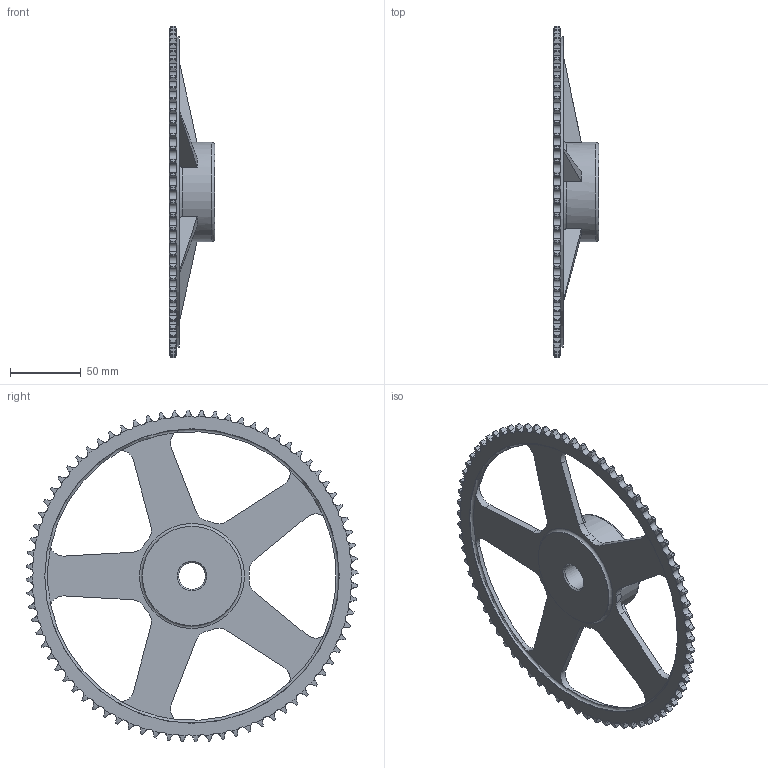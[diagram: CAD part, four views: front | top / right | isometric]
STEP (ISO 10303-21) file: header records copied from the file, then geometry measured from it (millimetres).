
FILE_DESCRIPTION(/* description */ (''),/* implementation_level */ '2;1');
FILE_NAME(/* name */ 'C:\Users\stagistacad\Desktop\12109076.stp',/* time_stamp */ '2018-06-20T16:34:53+02:00',/* author */ ('stagistacad'),/* organization */ (''),/* preprocessor_version */ 'ST-DEVELOPER v15.6',/* originating_system */ 'Autodesk Inventor 2015',/* authorisation */ '');
FILE_SCHEMA (('AUTOMOTIVE_DESIGN { 1 0 10303 214 3 1 1 }'));
Length unit declared in the file: millimetre
Products named in the file (1): 12109076
Bounding box: 32 x 234.1 x 234.1 mm (x, y, z)
Volume: 222608.6 mm3; surface area: 69561.6 mm2
Topology: 1 solids, 1 shells, 547 faces, 1619 edges, 1073 vertices
Faces by surface type: cylinder 349, torus 160, plane 31, cone 7
Full cylindrical faces by diameter (mm): 19 x1, 70 x2, 207.58 x1, 219 x1
Entity records: 20080 total; most frequent: CARTESIAN_POINT 6184, ORIENTED_EDGE 3212, DIRECTION 2638, EDGE_CURVE 1606, AXIS2_PLACEMENT_3D 1122, VERTEX_POINT 1070, B_SPLINE_CURVE_WITH_KNOTS 628, CIRCLE 574
